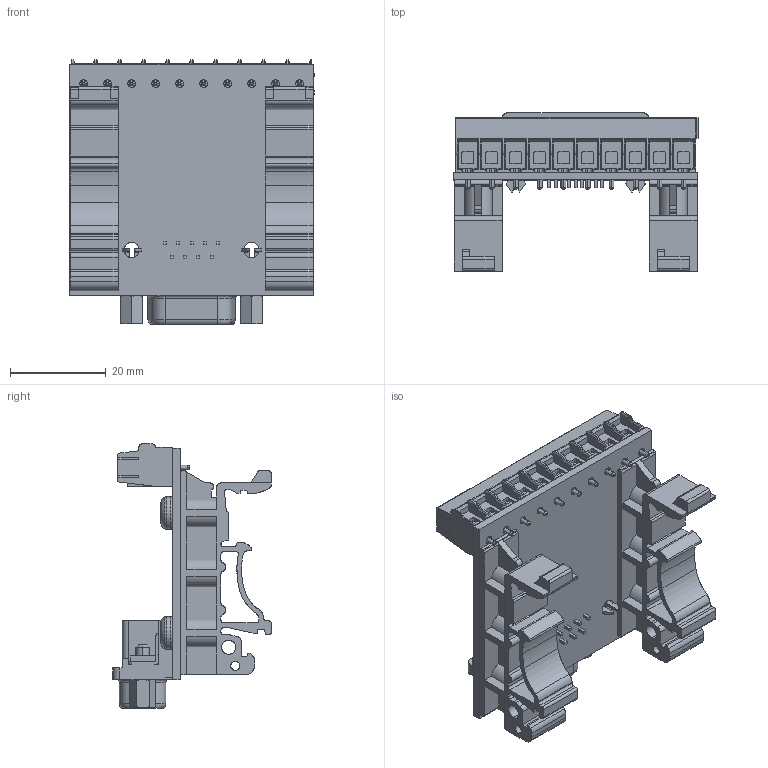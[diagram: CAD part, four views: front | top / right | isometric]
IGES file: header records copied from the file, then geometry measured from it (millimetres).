
Start section: SolidWorks IGES file using analytic representation for surfaces
Global section: file name: C:\Users\James Jarvis\Desktop\projects\screwBoards\APRS6591_DB9M_DIN_assembly.IGS; native system: SolidWorks 2012; preprocessor: SolidWorks 2012; author: James Jarvis; date: 160425.113826; units: inch
Bounding box: 50.97 x 33.09 x 55.2 mm (x, y, z)
Surface area: 20767.3 mm2 (no closed solid volume)
Topology: 0 solids, 0 shells, 1974 faces, 20210 edges, 20161 vertices
Faces by surface type: bspline 1247, revolution 727
